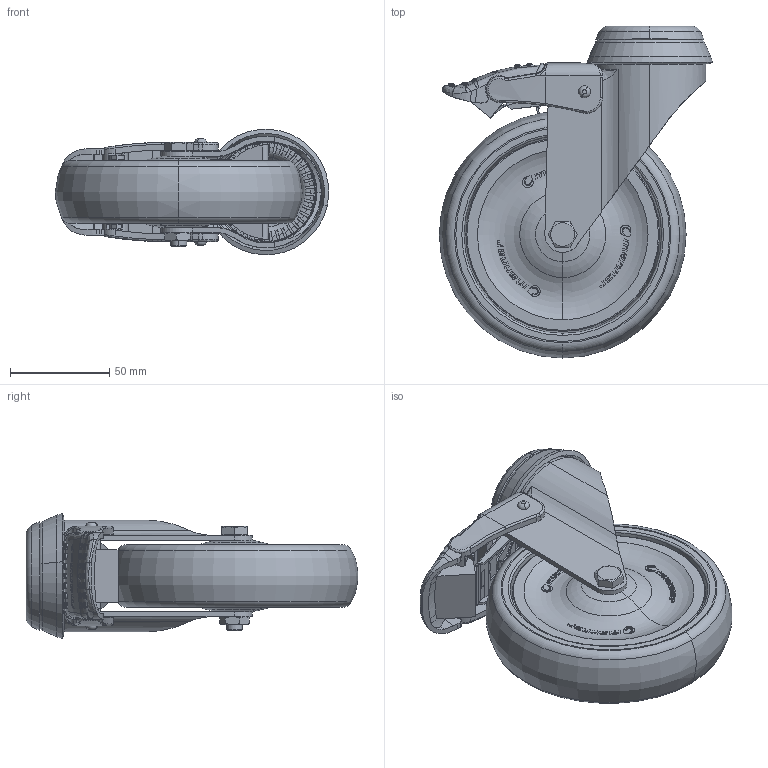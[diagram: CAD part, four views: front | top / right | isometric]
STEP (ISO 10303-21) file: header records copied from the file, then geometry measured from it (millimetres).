
FILE_DESCRIPTION (( 'STEP AP203' ), '1' );
FILE_NAME ('301585_STEP.STEP', '2012-02-28T08:45:19', ( '' ), ( '' ), 'SwSTEP 2.0', 'SolidWorks 2011', '' );
FILE_SCHEMA (( 'CONFIG_CONTROL_DESIGN' ));
Length unit declared in the file: millimetre
Products named in the file (1): 301585_STEP
Bounding box: 137.91 x 167.47 x 63.32 mm (x, y, z)
Surface area: 127695.2 mm2 (no closed solid volume)
Topology: 0 solids, 23 shells, 1145 faces, 4923 edges, 3627 vertices
Faces by surface type: plane 467, bspline 308, cylinder 227, torus 96, cone 47
Entity records: 78963 total; most frequent: CARTESIAN_POINT 46846, ORIENTED_EDGE 7289, EDGE_CURVE 4918, DIRECTION 3998, VERTEX_POINT 3627, B_SPLINE_CURVE_WITH_KNOTS 2950, VECTOR 1374, LINE 1374
